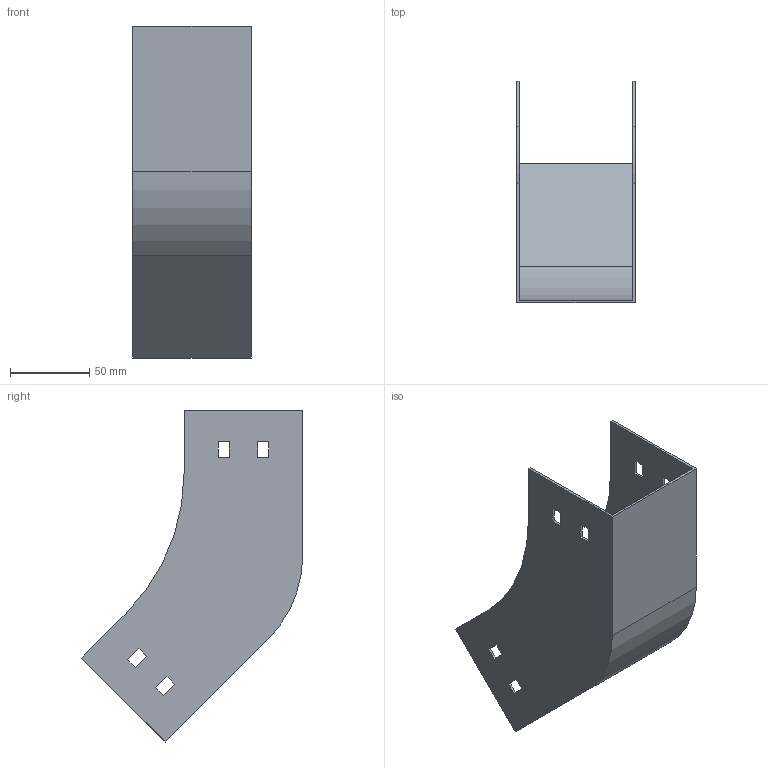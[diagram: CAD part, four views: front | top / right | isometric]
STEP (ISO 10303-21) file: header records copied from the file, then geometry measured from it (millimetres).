
FILE_DESCRIPTION (( 'STEP AP214' ), '1' );
FILE_NAME ('S4_077.step', '2025-07-16T09:26:03', ( '' ), ( '' ), 'SwSTEP 2.0', 'SolidWorks 2023', '' );
FILE_SCHEMA (( 'AUTOMOTIVE_DESIGN' ));
Length unit declared in the file: millimetre
Products named in the file (1): S4_077
Bounding box: 75 x 139.9 x 209.71 mm (x, y, z)
Volume: 74216.7 mm3; surface area: 100565.9 mm2
Topology: 1 solids, 1 shells, 50 faces, 144 edges, 96 vertices
Faces by surface type: plane 46, cylinder 4
Entity records: 1671 total; most frequent: CARTESIAN_POINT 291, ORIENTED_EDGE 288, DIRECTION 254, EDGE_CURVE 144, LINE 136, VECTOR 136, VERTEX_POINT 96, EDGE_LOOP 66
